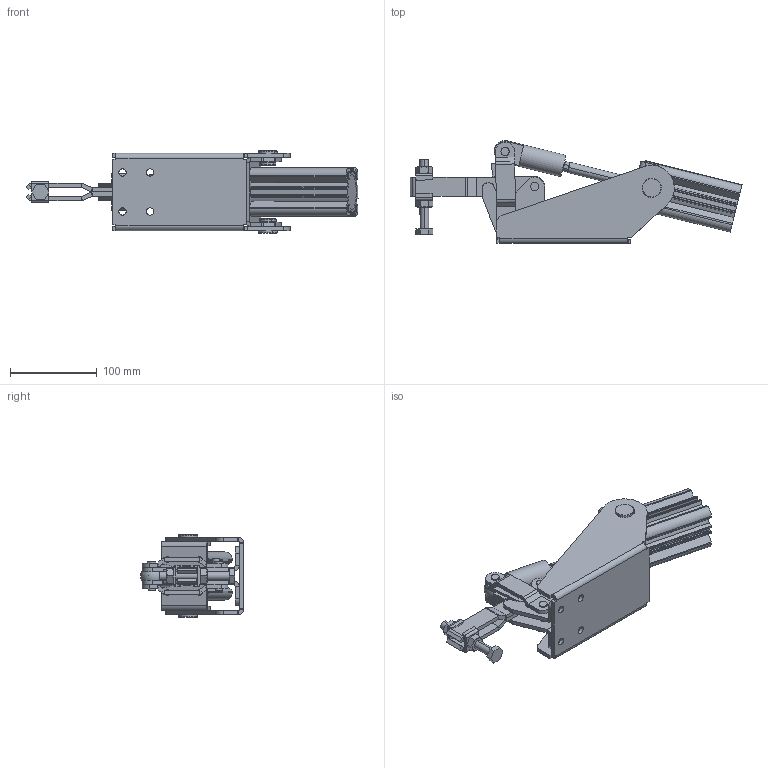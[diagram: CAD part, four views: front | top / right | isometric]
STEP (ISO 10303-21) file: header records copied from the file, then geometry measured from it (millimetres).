
FILE_DESCRIPTION (( 'STEP AP203' ), '1' );
FILE_NAME ('KF-111 DB P.STEP', '2016-12-15T11:26:18', ( 'Ricardo' ), ( '' ), 'SwSTEP 2.0', 'SolidWorks 2015', '' );
FILE_SCHEMA (( 'CONFIG_CONTROL_DESIGN' ));
Length unit declared in the file: millimetre
Products named in the file (22): 2 PC 21287; 04.20003; 3 PC 21287; 06.50009; 2800400700CP_avan㌢do; 06.50010; 03.13006; KF-111 DB P; 15.20029; 12.50021; 02.12010_Direita; 15.10101; 14.10003; 02.12010_Esquerda; 15.10062; 11.50003; 01.10168; 16.20071; PS-M10; 04.10003A_Direita; 1 PC 21287; 04.10003B_Direita
Assembly tree (28 placements, depth 3):
  KF-111 DB P
    02.12010_Direita
    02.12010_Esquerda
    01.10168  x2
    04.10003A_Direita
    04.10003B_Direita
    04.20003
    06.50009  x2
    06.50010  x2
    15.20029
    15.10101
    15.10062
    16.20071  x2
    03.13006  x2
    PS-M10
      12.50021
      14.10003  x2
      11.50003  x2
    2800400700CP_avan㌢do
      1 PC 21287
      2 PC 21287
      3 PC 21287
Bounding box: 383.27 x 118.75 x 95.5 mm (x, y, z)
Volume: 532594.6 mm3; surface area: 244403.9 mm2
Topology: 26 solids, 26 shells, 786 faces, 1854 edges, 1145 vertices
Faces by surface type: plane 380, cylinder 329, cone 74, bspline 2, sphere 1
Entity records: 21032 total; most frequent: DIRECTION 3382, CARTESIAN_POINT 3330, ORIENTED_EDGE 3000, EDGE_CURVE 1500, AXIS2_PLACEMENT_3D 1271, VERTEX_POINT 943, VECTOR 840, LINE 840
